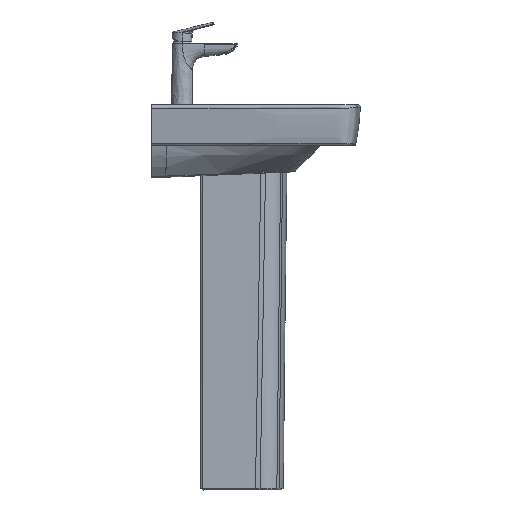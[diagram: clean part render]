
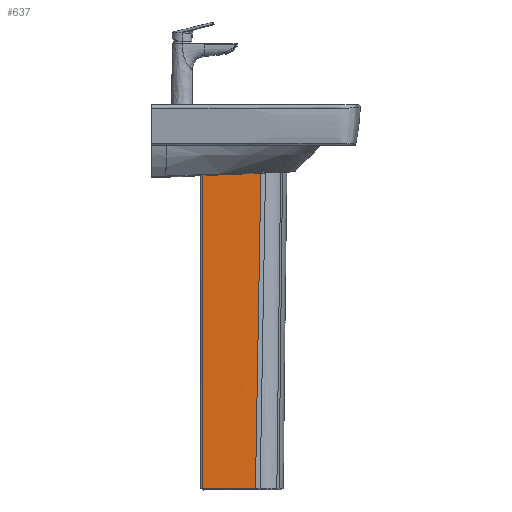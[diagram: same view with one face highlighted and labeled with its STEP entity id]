
A CAD part, left-side view. The second image highlights one B-rep face of the part: STEP entity #637.
In plain terms, the highlighted free-form (B-spline) face has degree [5, 5] with [9, 6] control points.
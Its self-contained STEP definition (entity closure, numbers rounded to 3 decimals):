
#637=ADVANCED_FACE('',(#1229),#8695,.T.);
#1229=FACE_OUTER_BOUND('',#1849,.T.);
#1849=EDGE_LOOP('',(#4512,#4513,#4514,#4515));
#4512=ORIENTED_EDGE('',*,*,#6000,.T.);
#4513=ORIENTED_EDGE('',*,*,#6001,.F.);
#4514=ORIENTED_EDGE('',*,*,#5999,.T.);
#4515=ORIENTED_EDGE('',*,*,#6079,.T.);
#5999=EDGE_CURVE('',#8275,#8309,#7421,.T.);
#6000=EDGE_CURVE('',#8311,#8276,#7422,.T.);
#6001=EDGE_CURVE('',#8275,#8276,#7423,.T.);
#6079=EDGE_CURVE('',#8309,#8311,#7488,.T.);
#7421=B_SPLINE_CURVE_WITH_KNOTS('',5,(#110845,#110846,#110847,#110848,#110849,
#110850,#110851,#110852,#110853),.UNSPECIFIED.,.F.,.F.,(6,3,6),(-235.829,
-121.908,-56.39),.UNSPECIFIED.);
#7422=B_SPLINE_CURVE_WITH_KNOTS('',3,(#110854,#110855,#110856,#110857),
 .UNSPECIFIED.,.F.,.F.,(4,4),(0.,11.761),
 .UNSPECIFIED.);
#7423=B_SPLINE_CURVE_WITH_KNOTS('',5,(#110858,#110859,#110860,#110861,#110862,
#110863,#110864,#110865,#110866),.UNSPECIFIED.,.F.,.F.,(6,3,6),(3.014,
357.581,712.461),.UNSPECIFIED.);
#7488=B_SPLINE_CURVE_WITH_KNOTS('',3,(#111431,#111432,#111433,#111434,#111435,
#111436,#111437,#111438,#111439,#111440,#111441,#111442,#111443,#111444,
#111445,#111446,#111447,#111448),.UNSPECIFIED.,.F.,.F.,(4,2,2,2,2,2,2,2,
4),(204.347,329.724,455.101,580.479,705.856,
831.233,956.611,1081.988,1207.365),
 .UNSPECIFIED.);
#8275=VERTEX_POINT('',#109857);
#8276=VERTEX_POINT('',#109858);
#8309=VERTEX_POINT('',#109891);
#8311=VERTEX_POINT('',#109893);
#8695=B_SPLINE_SURFACE_WITH_KNOTS('',5,5,((#108356,#108357,#108358,#108359,
#108360,#108361),(#108362,#108363,#108364,#108365,#108366,#108367),(#108368,
#108369,#108370,#108371,#108372,#108373),(#108374,#108375,#108376,#108377,
#108378,#108379),(#108380,#108381,#108382,#108383,#108384,#108385),(#108386,
#108387,#108388,#108389,#108390,#108391),(#108392,#108393,#108394,#108395,
#108396,#108397),(#108398,#108399,#108400,#108401,#108402,#108403),(#108404,
#108405,#108406,#108407,#108408,#108409)),.UNSPECIFIED.,.F.,.F.,.F.,(6,
3,6),(6,6),(3.014,357.581,712.461),(-53.369,
76.24),.UNSPECIFIED.);
#108356=CARTESIAN_POINT('',(-93.781,118.786,286.69));
#108357=CARTESIAN_POINT('',(-93.417,92.852,286.69));
#108358=CARTESIAN_POINT('',(-93.048,66.918,286.69));
#108359=CARTESIAN_POINT('',(-92.678,40.985,286.69));
#108360=CARTESIAN_POINT('',(-92.308,15.051,286.69));
#108361=CARTESIAN_POINT('',(-91.941,-10.883,286.69));
#108362=CARTESIAN_POINT('',(-93.288,119.974,215.791));
#108363=CARTESIAN_POINT('',(-93.058,94.04,215.79));
#108364=CARTESIAN_POINT('',(-92.714,68.107,215.79));
#108365=CARTESIAN_POINT('',(-92.32,42.174,215.792));
#108366=CARTESIAN_POINT('',(-91.941,16.241,215.793));
#108367=CARTESIAN_POINT('',(-91.641,-9.692,215.793));
#108368=CARTESIAN_POINT('',(-92.955,121.169,144.889));
#108369=CARTESIAN_POINT('',(-92.953,95.239,144.885));
#108370=CARTESIAN_POINT('',(-92.667,69.311,144.884));
#108371=CARTESIAN_POINT('',(-92.229,43.383,144.885));
#108372=CARTESIAN_POINT('',(-91.769,17.455,144.886));
#108373=CARTESIAN_POINT('',(-91.418,-8.475,144.885));
#108374=CARTESIAN_POINT('',(-91.686,122.363,73.998));
#108375=CARTESIAN_POINT('',(-91.325,96.439,73.999));
#108376=CARTESIAN_POINT('',(-90.786,70.517,74.003));
#108377=CARTESIAN_POINT('',(-90.209,44.596,74.009));
#108378=CARTESIAN_POINT('',(-89.734,18.674,74.013));
#108379=CARTESIAN_POINT('',(-89.501,-7.251,74.015));
#108380=CARTESIAN_POINT('',(-90.459,124.75,-67.863));
#108381=CARTESIAN_POINT('',(-90.214,98.833,-67.864));
#108382=CARTESIAN_POINT('',(-89.631,72.921,-67.861));
#108383=CARTESIAN_POINT('',(-88.912,47.011,-67.856));
#108384=CARTESIAN_POINT('',(-88.263,21.099,-67.852));
#108385=CARTESIAN_POINT('',(-87.889,-4.817,-67.851));
#108386=CARTESIAN_POINT('',(-88.647,127.138,-209.717));
#108387=CARTESIAN_POINT('',(-88.201,101.228,-209.716));
#108388=CARTESIAN_POINT('',(-87.505,75.324,-209.712));
#108389=CARTESIAN_POINT('',(-86.733,49.421,-209.707));
#108390=CARTESIAN_POINT('',(-86.055,23.518,-209.702));
#108391=CARTESIAN_POINT('',(-85.645,-2.39,-209.7));
#108392=CARTESIAN_POINT('',(-88.412,128.33,-280.684));
#108393=CARTESIAN_POINT('',(-88.304,102.422,-280.687));
#108394=CARTESIAN_POINT('',(-87.822,76.518,-280.689));
#108395=CARTESIAN_POINT('',(-87.139,50.616,-280.688));
#108396=CARTESIAN_POINT('',(-86.425,24.714,-280.687));
#108397=CARTESIAN_POINT('',(-85.852,-1.192,-280.688));
#108398=CARTESIAN_POINT('',(-87.266,129.522,-351.639));
#108399=CARTESIAN_POINT('',(-86.948,103.613,-351.64));
#108400=CARTESIAN_POINT('',(-86.445,77.708,-351.64));
#108401=CARTESIAN_POINT('',(-85.853,51.805,-351.638));
#108402=CARTESIAN_POINT('',(-85.269,25.902,-351.637));
#108403=CARTESIAN_POINT('',(-84.79,-0.003,-351.637));
#108404=CARTESIAN_POINT('',(-86.325,130.717,-422.597));
#108405=CARTESIAN_POINT('',(-85.957,104.811,-422.597));
#108406=CARTESIAN_POINT('',(-85.583,78.905,-422.597));
#108407=CARTESIAN_POINT('',(-85.206,52.999,-422.597));
#108408=CARTESIAN_POINT('',(-84.829,27.093,-422.597));
#108409=CARTESIAN_POINT('',(-84.456,1.187,-422.596));
#109857=CARTESIAN_POINT('',(-91.941,-10.883,286.69));
#109858=CARTESIAN_POINT('',(-84.456,1.187,-422.596));
#109891=CARTESIAN_POINT('',(-93.781,118.786,286.682));
#109893=CARTESIAN_POINT('',(-86.155,118.777,-422.597));
#110845=CARTESIAN_POINT('',(-91.941,-10.883,286.69));
#110846=CARTESIAN_POINT('',(-92.169,5.231,286.689));
#110847=CARTESIAN_POINT('',(-92.398,21.344,286.688));
#110848=CARTESIAN_POINT('',(-92.635,37.946,286.688));
#110849=CARTESIAN_POINT('',(-92.997,63.327,286.688));
#110850=CARTESIAN_POINT('',(-93.357,88.708,286.687));
#110851=CARTESIAN_POINT('',(-93.497,98.596,286.686));
#110852=CARTESIAN_POINT('',(-93.64,108.723,286.684));
#110853=CARTESIAN_POINT('',(-93.781,118.786,286.682));
#110854=CARTESIAN_POINT('',(-86.155,118.777,-422.597));
#110855=CARTESIAN_POINT('',(-85.596,79.58,-422.597));
#110856=CARTESIAN_POINT('',(-85.02,40.384,-422.596));
#110857=CARTESIAN_POINT('',(-84.456,1.187,-422.596));
#110858=CARTESIAN_POINT('',(-91.941,-10.883,286.69));
#110859=CARTESIAN_POINT('',(-91.641,-9.692,215.793));
#110860=CARTESIAN_POINT('',(-91.418,-8.475,144.884));
#110861=CARTESIAN_POINT('',(-89.501,-7.251,74.015));
#110862=CARTESIAN_POINT('',(-87.889,-4.817,-67.851));
#110863=CARTESIAN_POINT('',(-85.645,-2.39,-209.7));
#110864=CARTESIAN_POINT('',(-85.852,-1.192,-280.688));
#110865=CARTESIAN_POINT('',(-84.79,-0.003,-351.637));
#110866=CARTESIAN_POINT('',(-84.456,1.187,-422.596));
#111431=CARTESIAN_POINT('',(-93.781,118.786,286.682));
#111432=CARTESIAN_POINT('',(-93.569,118.792,257.137));
#111433=CARTESIAN_POINT('',(-93.379,118.799,227.589));
#111434=CARTESIAN_POINT('',(-92.877,118.804,168.493));
#111435=CARTESIAN_POINT('',(-92.57,118.802,138.946));
#111436=CARTESIAN_POINT('',(-91.896,118.795,79.854));
#111437=CARTESIAN_POINT('',(-91.537,118.79,50.3));
#111438=CARTESIAN_POINT('',(-90.862,118.784,-8.934));
#111439=CARTESIAN_POINT('',(-90.556,118.783,-38.558));
#111440=CARTESIAN_POINT('',(-89.905,118.779,-97.573));
#111441=CARTESIAN_POINT('',(-89.558,118.776,-127.134));
#111442=CARTESIAN_POINT('',(-88.937,118.776,-186.224));
#111443=CARTESIAN_POINT('',(-88.657,118.777,-215.751));
#111444=CARTESIAN_POINT('',(-88.067,118.781,-274.91));
#111445=CARTESIAN_POINT('',(-87.748,118.782,-304.575));
#111446=CARTESIAN_POINT('',(-86.995,118.78,-363.835));
#111447=CARTESIAN_POINT('',(-86.538,118.777,-394.496));
#111448=CARTESIAN_POINT('',(-86.155,118.777,-422.597));
